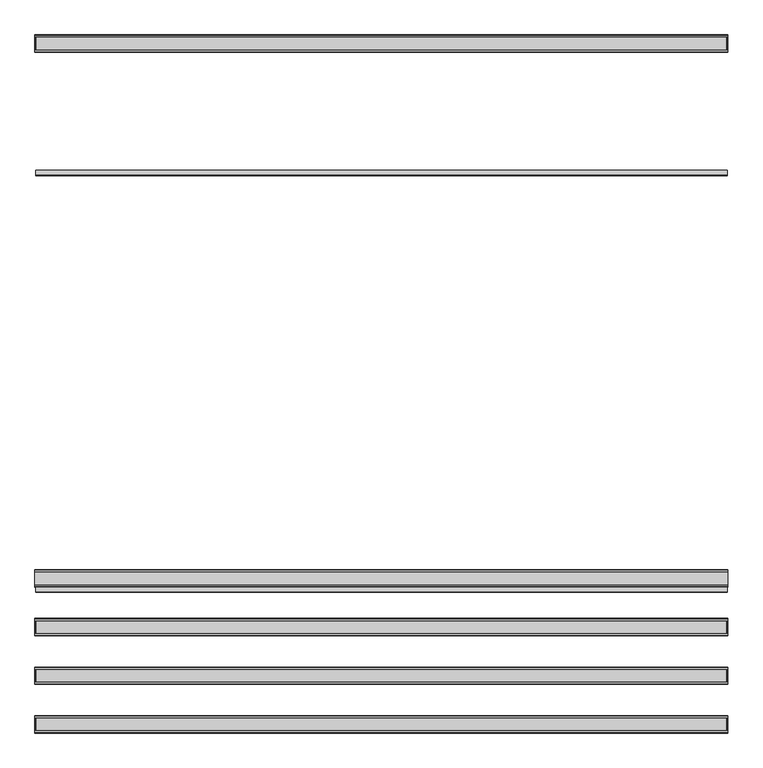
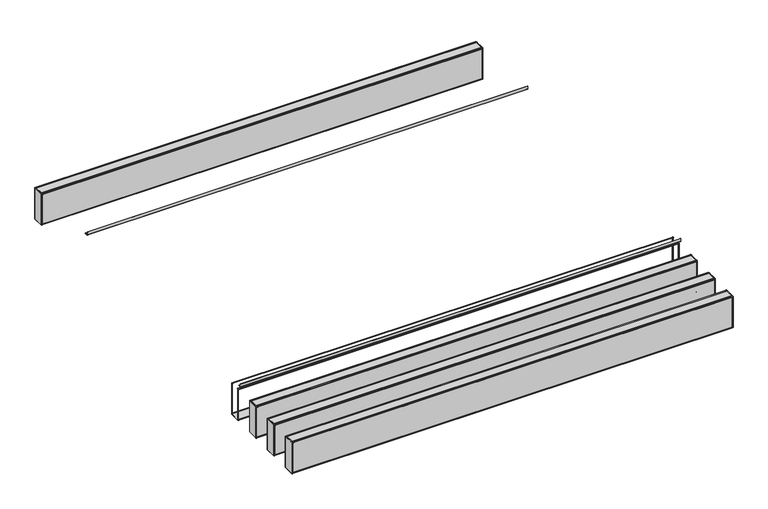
"""IFC4 building model written with IfcOpenShell, lengths in millimetres: proxy geometry, durlum_POLYLAM : durlum_POLYLAM 100 RV-L6."""

from ifc_helpers import new_model, si_unit, point, frame, frame_2d, origin, place, context, project, spatial, polyline, circle_curve, trimmed, segment, composite_curve, outline, extrude, source, transform, mapped, element, save
from ifc_brep_helpers import plane_surface, cylinder_surface, advanced_brep


def generic_models_9dfc34b4(model_context):
    return source(origin(), model_context, "Body", "SolidModel", [
        advanced_brep(
        [(1995.0, -1072.0, 2016.9), (1995.0, -1082.0, 2016.9), (1995.0, -1082.0, 2015.9), (1995.0, -1071.0, 2015.9), (1995.0, -1071.0, 1717.9), (1995.0, -1169.0, 1717.9), (1995.0, -1169.0, 2015.8155735), (1995.0, -1158.0, 2015.8155735), (1995.0, -1158.0, 2016.9), (1995.0, -1168.0, 2016.9), (1995.0, -1170.0, 2014.9), (1995.0, -1170.0, 1718.9), (1995.0, -1168.0, 1716.9), (1995.0, -1072.0, 1716.9), (1995.0, -1070.0, 1718.9), (1995.0, -1070.0, 2014.9), (-1995.0, -1072.0, 2016.9), (-1995.0, -1070.0, 2014.9), (-1995.0, -1070.0, 1718.9), (-1995.0, -1072.0, 1716.9), (-1995.0, -1168.0, 1716.9), (-1995.0, -1170.0, 1718.9), (-1995.0, -1170.0, 2014.9), (-1995.0, -1168.0, 2016.9), (-1995.0, -1158.0, 2016.9), (-1995.0, -1158.0, 2015.8155735), (-1995.0, -1169.0, 2015.8155735), (-1995.0, -1169.0, 1717.9), (-1995.0, -1071.0, 1717.9), (-1995.0, -1071.0, 2015.9), (-1995.0, -1082.0, 2015.9), (-1995.0, -1082.0, 2016.9), (-1986.5, -1071.0, 2008.4), (1986.5, -1071.0, 2008.4), (1986.5, -1071.0, 1725.4), (-1986.5, -1071.0, 1725.4), (1986.5, -1169.0, 2008.4), (-1986.5, -1169.0, 2008.4), (-1986.5, -1169.0, 1725.4), (1986.5, -1169.0, 1725.4), (-1986.5, -1170.0, 2008.4), (1986.5, -1170.0, 2008.4), (1986.5, -1170.0, 1725.4), (-1986.5, -1170.0, 1725.4), (1986.5, -1070.0, 2008.4), (-1986.5, -1070.0, 2008.4), (-1986.5, -1070.0, 1725.4), (1986.5, -1070.0, 1725.4)],
        [
            (0, 1),
            (1, 2),
            (2, 3),
            (3, 4),
            (4, 5),
            (5, 6),
            (6, 7),
            (7, 8),
            (8, 9),
            (9, 10, circle_curve(frame((1995.0, -1168.0, 2014.9), z_axis=(1.0, 0.0, 0.0), x_axis=(0.0, 1.0, 0.0)), 2.0)),
            (10, 11),
            (11, 12, circle_curve(frame((1995.0, -1168.0, 1718.9), z_axis=(1.0, 0.0, 0.0), x_axis=(0.0, 1.0, 0.0)), 2.0)),
            (12, 13),
            (13, 14, circle_curve(frame((1995.0, -1072.0, 1718.9), z_axis=(1.0, 0.0, 0.0), x_axis=(0.0, 1.0, 0.0)), 2.0)),
            (14, 15),
            (15, 0, circle_curve(frame((1995.0, -1072.0, 2014.9), z_axis=(1.0, 0.0, 0.0), x_axis=(0.0, 1.0, 0.0)), 2.0)),
            (16, 17, circle_curve(frame((-1995.0, -1072.0, 2014.9), z_axis=(-1.0, 0.0, 0.0), x_axis=(0.0, 1.0, 0.0)), 2.0)),
            (17, 18),
            (18, 19, circle_curve(frame((-1995.0, -1072.0, 1718.9), z_axis=(-1.0, 0.0, 0.0), x_axis=(0.0, 1.0, 0.0)), 2.0)),
            (19, 20),
            (20, 21, circle_curve(frame((-1995.0, -1168.0, 1718.9), z_axis=(-1.0, 0.0, 0.0), x_axis=(0.0, 1.0, 0.0)), 2.0)),
            (21, 22),
            (22, 23, circle_curve(frame((-1995.0, -1168.0, 2014.9), z_axis=(-1.0, 0.0, 0.0), x_axis=(0.0, 1.0, 0.0)), 2.0)),
            (23, 24),
            (24, 25),
            (25, 26),
            (26, 27),
            (27, 28),
            (28, 29),
            (29, 30),
            (30, 31),
            (31, 16),
            (0, 16),
            (31, 1),
            (30, 2),
            (29, 3),
            (28, 4),
            (32, 33),
            (33, 34),
            (34, 35),
            (35, 32),
            (27, 5),
            (26, 6),
            (36, 37),
            (37, 38),
            (38, 39),
            (39, 36),
            (25, 7),
            (24, 8),
            (23, 9),
            (10, 22),
            (21, 11),
            (40, 41),
            (41, 42),
            (42, 43),
            (43, 40),
            (12, 20),
            (19, 13),
            (14, 18),
            (17, 15),
            (44, 45),
            (45, 46),
            (46, 47),
            (47, 44),
            (44, 33),
            (32, 45),
            (36, 41),
            (40, 37),
            (35, 46),
            (43, 38),
            (34, 47),
            (42, 39),
        ],
        [
            plane_surface(frame((1995.0, -1082.0, 2016.9), z_axis=(1.0, 0.0, 0.0), x_axis=(0.0, -1.0, 0.0))),
            plane_surface(frame((-1995.0, -1082.0, 2016.9), z_axis=(-1.0, 0.0, 0.0), x_axis=(0.0, 1.0, 0.0))),
            plane_surface(frame((1995.0, -1072.0, 2016.9), z_axis=(0.0, 0.0, 1.0), x_axis=(-1.0, 0.0, 0.0))),
            plane_surface(frame((1995.0, -1082.0, 2016.9), z_axis=(0.0, -1.0, 0.0), x_axis=(-1.0, 0.0, 0.0))),
            plane_surface(frame((1995.0, -1082.0, 2015.9), z_axis=(0.0, 0.0, -1.0), x_axis=(-1.0, 0.0, 0.0))),
            plane_surface(frame((1995.0, -1071.0, 2015.9), z_axis=(0.0, -1.0, 0.0), x_axis=(-1.0, 0.0, 0.0))),
            plane_surface(frame((1995.0, -1071.0, 1717.9), z_axis=(0.0, 0.0, 1.0), x_axis=(-1.0, 0.0, 0.0))),
            plane_surface(frame((1995.0, -1169.0, 1717.9), z_axis=(0.0, 1.0, 0.0), x_axis=(-1.0, 0.0, 0.0))),
            plane_surface(frame((1995.0, -1169.0, 2015.8155735), z_axis=(0.0, 0.0, -1.0), x_axis=(-1.0, 0.0, 0.0))),
            plane_surface(frame((1995.0, -1158.0, 2015.8155735), z_axis=(0.0, 1.0, 0.0), x_axis=(-1.0, 0.0, 0.0))),
            plane_surface(frame((1995.0, -1158.0, 2016.9), z_axis=(0.0, 0.0, 1.0), x_axis=(-1.0, 0.0, 0.0))),
            plane_surface(frame((1995.0, -1170.0, 2014.9), z_axis=(0.0, -1.0, 0.0), x_axis=(-1.0, 0.0, 0.0))),
            plane_surface(frame((1995.0, -1168.0, 1716.9), z_axis=(0.0, 0.0, -1.0), x_axis=(-1.0, 0.0, 0.0))),
            plane_surface(frame((1995.0, -1070.0, 1718.9), z_axis=(0.0, 1.0, 0.0), x_axis=(-1.0, 0.0, 0.0))),
            cylinder_surface(frame((-1995.0, -1168.0, 2014.9), z_axis=(1.0, 0.0, 0.0), x_axis=(0.0, 1.0, 0.0)), 2.0),
            cylinder_surface(frame((-1995.0, -1168.0, 1718.9), z_axis=(1.0, 0.0, 0.0), x_axis=(0.0, 1.0, 0.0)), 2.0),
            cylinder_surface(frame((-1995.0, -1072.0, 1718.9), z_axis=(1.0, 0.0, 0.0), x_axis=(0.0, 1.0, 0.0)), 2.0),
            cylinder_surface(frame((-1995.0, -1072.0, 2014.9), z_axis=(1.0, 0.0, 0.0), x_axis=(0.0, 1.0, 0.0)), 2.0),
            plane_surface(frame((1986.5, -1170.0, 2008.4), z_axis=(0.0, 0.0, -1.0), x_axis=(0.0, 1.0, 0.0))),
            plane_surface(frame((-1986.5, -1170.0, 2008.4), z_axis=(1.0, 0.0, 0.0), x_axis=(0.0, 1.0, 0.0))),
            plane_surface(frame((-1986.5, -1170.0, 1725.4), z_axis=(0.0, 0.0, 1.0), x_axis=(0.0, 1.0, 0.0))),
            plane_surface(frame((1986.5, -1170.0, 1725.4), z_axis=(-1.0, 0.0, 0.0), x_axis=(0.0, 1.0, 0.0))),
        ],
        [
            (0, [[1, 2, 3, 4, 5, 6, 7, 8, 9, 10, 11, 12, 13, 14, 15, 16]]),
            (1, [[17, 18, 19, 20, 21, 22, 23, 24, 25, 26, 27, 28, 29, 30, 31, 32]]),
            (2, [[-1, 33, -32, 34]]),
            (3, [[-2, -34, -31, 35]]),
            (4, [[-3, -35, -30, 36]]),
            (5, [[-4, -36, -29, 37], [38, 39, 40, 41]]),
            (6, [[-5, -37, -28, 42]]),
            (7, [[-6, -42, -27, 43], [44, 45, 46, 47]]),
            (8, [[-7, -43, -26, 48]]),
            (9, [[-8, -48, -25, 49]]),
            (10, [[-9, -49, -24, 50]]),
            (11, [[-11, 51, -22, 52], [53, 54, 55, 56]]),
            (12, [[-13, 57, -20, 58]]),
            (13, [[-15, 59, -18, 60], [61, 62, 63, 64]]),
            (14, [[-10, -50, -23, -51]]),
            (15, [[-12, -52, -21, -57]]),
            (16, [[-14, -58, -19, -59]]),
            (17, [[-16, -60, -17, -33]]),
            (18, [[65, -38, 66, -61]]),
            (18, [[67, -53, 68, -44]]),
            (19, [[-66, -41, 69, -62]]),
            (19, [[-68, -56, 70, -45]]),
            (20, [[-69, -40, 71, -63]]),
            (20, [[-70, -55, 72, -46]]),
            (21, [[-65, -64, -71, -39]]),
            (21, [[-67, -47, -72, -54]]),
        ],
    ),
        extrude(outline(polyline([(1993.0, -1351.0), (1995.0, -1351.0), (1995.0, -1449.0), (1993.0, -1449.0), (1993.0, -1351.0)])), frame((0.0, 0.0, 1717.9), z_axis=(0.0, 0.0, 1.0), x_axis=(1.0, 0.0, 0.0)), (0.0, 0.0, 1.0), 298.0),
        extrude(outline(polyline([(-1995.0, -1351.0), (-1993.0, -1351.0), (-1993.0, -1449.0), (-1995.0, -1449.0), (-1995.0, -1351.0)])), frame((0.0, 0.0, 1717.9), z_axis=(0.0, 0.0, 1.0), x_axis=(1.0, 0.0, 0.0)), (0.0, 0.0, 1.0), 298.0),
        extrude(outline(polyline([(1986.5, -1351.0), (1986.5, -1449.0), (-1986.5, -1449.0), (-1986.5, -1351.0), (1986.5, -1351.0)])), frame((0.0, 0.0, 1717.9), z_axis=(0.0, 0.0, 1.0), x_axis=(1.0, 0.0, 0.0)), (0.0, 0.0, 1.0), 298.0),
        extrude(outline(polyline([(1986.5, -1351.0), (-1986.5, -1351.0), (-1986.5, -1350.0), (1986.5, -1350.0), (1986.5, -1351.0)])), frame((0.0, 0.0, 1725.4), z_axis=(0.0, 0.0, 1.0), x_axis=(1.0, 0.0, 0.0)), (0.0, 0.0, 1.0), 283.0),
        extrude(outline(polyline([(1986.5, -1450.0), (-1986.5, -1450.0), (-1986.5, -1449.0), (1986.5, -1449.0), (1986.5, -1450.0)])), frame((0.0, 0.0, 1725.4), z_axis=(0.0, 0.0, 1.0), x_axis=(1.0, 0.0, 0.0)), (0.0, 0.0, 1.0), 283.0),
        advanced_brep(
        [(1995.0, -1352.0, 2016.9), (1995.0, -1362.0, 2016.9), (1995.0, -1362.0, 2015.9), (1995.0, -1351.0, 2015.9), (1995.0, -1351.0, 1717.9), (1995.0, -1449.0, 1717.9), (1995.0, -1449.0, 2015.8155735), (1995.0, -1438.0, 2015.8155735), (1995.0, -1438.0, 2016.9), (1995.0, -1448.0, 2016.9), (1995.0, -1450.0, 2014.9), (1995.0, -1450.0, 1718.9), (1995.0, -1448.0, 1716.9), (1995.0, -1352.0, 1716.9), (1995.0, -1350.0, 1718.9), (1995.0, -1350.0, 2014.9), (-1995.0, -1352.0, 2016.9), (-1995.0, -1350.0, 2014.9), (-1995.0, -1350.0, 1718.9), (-1995.0, -1352.0, 1716.9), (-1995.0, -1448.0, 1716.9), (-1995.0, -1450.0, 1718.9), (-1995.0, -1450.0, 2014.9), (-1995.0, -1448.0, 2016.9), (-1995.0, -1438.0, 2016.9), (-1995.0, -1438.0, 2015.8155735), (-1995.0, -1449.0, 2015.8155735), (-1995.0, -1449.0, 1717.9), (-1995.0, -1351.0, 1717.9), (-1995.0, -1351.0, 2015.9), (-1995.0, -1362.0, 2015.9), (-1995.0, -1362.0, 2016.9), (-1986.5, -1351.0, 2008.4), (1986.5, -1351.0, 2008.4), (1986.5, -1351.0, 1725.4), (-1986.5, -1351.0, 1725.4), (1986.5, -1449.0, 2008.4), (-1986.5, -1449.0, 2008.4), (-1986.5, -1449.0, 1725.4), (1986.5, -1449.0, 1725.4), (-1986.5, -1450.0, 2008.4), (1986.5, -1450.0, 2008.4), (1986.5, -1450.0, 1725.4), (-1986.5, -1450.0, 1725.4), (1986.5, -1350.0, 2008.4), (-1986.5, -1350.0, 2008.4), (-1986.5, -1350.0, 1725.4), (1986.5, -1350.0, 1725.4)],
        [
            (0, 1),
            (1, 2),
            (2, 3),
            (3, 4),
            (4, 5),
            (5, 6),
            (6, 7),
            (7, 8),
            (8, 9),
            (9, 10, circle_curve(frame((1995.0, -1448.0, 2014.9), z_axis=(1.0, 0.0, 0.0), x_axis=(0.0, 1.0, 0.0)), 2.0)),
            (10, 11),
            (11, 12, circle_curve(frame((1995.0, -1448.0, 1718.9), z_axis=(1.0, 0.0, 0.0), x_axis=(0.0, 1.0, 0.0)), 2.0)),
            (12, 13),
            (13, 14, circle_curve(frame((1995.0, -1352.0, 1718.9), z_axis=(1.0, 0.0, 0.0), x_axis=(0.0, 1.0, 0.0)), 2.0)),
            (14, 15),
            (15, 0, circle_curve(frame((1995.0, -1352.0, 2014.9), z_axis=(1.0, 0.0, 0.0), x_axis=(0.0, 1.0, 0.0)), 2.0)),
            (16, 17, circle_curve(frame((-1995.0, -1352.0, 2014.9), z_axis=(-1.0, 0.0, 0.0), x_axis=(0.0, 1.0, 0.0)), 2.0)),
            (17, 18),
            (18, 19, circle_curve(frame((-1995.0, -1352.0, 1718.9), z_axis=(-1.0, 0.0, 0.0), x_axis=(0.0, 1.0, 0.0)), 2.0)),
            (19, 20),
            (20, 21, circle_curve(frame((-1995.0, -1448.0, 1718.9), z_axis=(-1.0, 0.0, 0.0), x_axis=(0.0, 1.0, 0.0)), 2.0)),
            (21, 22),
            (22, 23, circle_curve(frame((-1995.0, -1448.0, 2014.9), z_axis=(-1.0, 0.0, 0.0), x_axis=(0.0, 1.0, 0.0)), 2.0)),
            (23, 24),
            (24, 25),
            (25, 26),
            (26, 27),
            (27, 28),
            (28, 29),
            (29, 30),
            (30, 31),
            (31, 16),
            (0, 16),
            (31, 1),
            (30, 2),
            (29, 3),
            (28, 4),
            (32, 33),
            (33, 34),
            (34, 35),
            (35, 32),
            (27, 5),
            (26, 6),
            (36, 37),
            (37, 38),
            (38, 39),
            (39, 36),
            (25, 7),
            (24, 8),
            (23, 9),
            (10, 22),
            (21, 11),
            (40, 41),
            (41, 42),
            (42, 43),
            (43, 40),
            (12, 20),
            (19, 13),
            (14, 18),
            (17, 15),
            (44, 45),
            (45, 46),
            (46, 47),
            (47, 44),
            (44, 33),
            (32, 45),
            (36, 41),
            (40, 37),
            (35, 46),
            (43, 38),
            (34, 47),
            (42, 39),
        ],
        [
            plane_surface(frame((1995.0, -1362.0, 2016.9), z_axis=(1.0, 0.0, 0.0), x_axis=(0.0, -1.0, 0.0))),
            plane_surface(frame((-1995.0, -1362.0, 2016.9), z_axis=(-1.0, 0.0, 0.0), x_axis=(0.0, 1.0, 0.0))),
            plane_surface(frame((1995.0, -1352.0, 2016.9), z_axis=(0.0, 0.0, 1.0), x_axis=(-1.0, 0.0, 0.0))),
            plane_surface(frame((1995.0, -1362.0, 2016.9), z_axis=(0.0, -1.0, 0.0), x_axis=(-1.0, 0.0, 0.0))),
            plane_surface(frame((1995.0, -1362.0, 2015.9), z_axis=(0.0, 0.0, -1.0), x_axis=(-1.0, 0.0, 0.0))),
            plane_surface(frame((1995.0, -1351.0, 2015.9), z_axis=(0.0, -1.0, 0.0), x_axis=(-1.0, 0.0, 0.0))),
            plane_surface(frame((1995.0, -1351.0, 1717.9), z_axis=(0.0, 0.0, 1.0), x_axis=(-1.0, 0.0, 0.0))),
            plane_surface(frame((1995.0, -1449.0, 1717.9), z_axis=(0.0, 1.0, 0.0), x_axis=(-1.0, 0.0, 0.0))),
            plane_surface(frame((1995.0, -1449.0, 2015.8155735), z_axis=(0.0, 0.0, -1.0), x_axis=(-1.0, 0.0, 0.0))),
            plane_surface(frame((1995.0, -1438.0, 2015.8155735), z_axis=(0.0, 1.0, 0.0), x_axis=(-1.0, 0.0, 0.0))),
            plane_surface(frame((1995.0, -1438.0, 2016.9), z_axis=(0.0, 0.0, 1.0), x_axis=(-1.0, 0.0, 0.0))),
            plane_surface(frame((1995.0, -1450.0, 2014.9), z_axis=(0.0, -1.0, 0.0), x_axis=(-1.0, 0.0, 0.0))),
            plane_surface(frame((1995.0, -1448.0, 1716.9), z_axis=(0.0, 0.0, -1.0), x_axis=(-1.0, 0.0, 0.0))),
            plane_surface(frame((1995.0, -1350.0, 1718.9), z_axis=(0.0, 1.0, 0.0), x_axis=(-1.0, 0.0, 0.0))),
            cylinder_surface(frame((-1995.0, -1448.0, 2014.9), z_axis=(1.0, 0.0, 0.0), x_axis=(0.0, 1.0, 0.0)), 2.0),
            cylinder_surface(frame((-1995.0, -1448.0, 1718.9), z_axis=(1.0, 0.0, 0.0), x_axis=(0.0, 1.0, 0.0)), 2.0),
            cylinder_surface(frame((-1995.0, -1352.0, 1718.9), z_axis=(1.0, 0.0, 0.0), x_axis=(0.0, 1.0, 0.0)), 2.0),
            cylinder_surface(frame((-1995.0, -1352.0, 2014.9), z_axis=(1.0, 0.0, 0.0), x_axis=(0.0, 1.0, 0.0)), 2.0),
            plane_surface(frame((1986.5, -1450.0, 2008.4), z_axis=(0.0, 0.0, -1.0), x_axis=(0.0, 1.0, 0.0))),
            plane_surface(frame((-1986.5, -1450.0, 2008.4), z_axis=(1.0, 0.0, 0.0), x_axis=(0.0, 1.0, 0.0))),
            plane_surface(frame((-1986.5, -1450.0, 1725.4), z_axis=(0.0, 0.0, 1.0), x_axis=(0.0, 1.0, 0.0))),
            plane_surface(frame((1986.5, -1450.0, 1725.4), z_axis=(-1.0, 0.0, 0.0), x_axis=(0.0, 1.0, 0.0))),
        ],
        [
            (0, [[1, 2, 3, 4, 5, 6, 7, 8, 9, 10, 11, 12, 13, 14, 15, 16]]),
            (1, [[17, 18, 19, 20, 21, 22, 23, 24, 25, 26, 27, 28, 29, 30, 31, 32]]),
            (2, [[-1, 33, -32, 34]]),
            (3, [[-2, -34, -31, 35]]),
            (4, [[-3, -35, -30, 36]]),
            (5, [[-4, -36, -29, 37], [38, 39, 40, 41]]),
            (6, [[-5, -37, -28, 42]]),
            (7, [[-6, -42, -27, 43], [44, 45, 46, 47]]),
            (8, [[-7, -43, -26, 48]]),
            (9, [[-8, -48, -25, 49]]),
            (10, [[-9, -49, -24, 50]]),
            (11, [[-11, 51, -22, 52], [53, 54, 55, 56]]),
            (12, [[-13, 57, -20, 58]]),
            (13, [[-15, 59, -18, 60], [61, 62, 63, 64]]),
            (14, [[-10, -50, -23, -51]]),
            (15, [[-12, -52, -21, -57]]),
            (16, [[-14, -58, -19, -59]]),
            (17, [[-16, -60, -17, -33]]),
            (18, [[65, -38, 66, -61]]),
            (18, [[67, -53, 68, -44]]),
            (19, [[-66, -41, 69, -62]]),
            (19, [[-68, -56, 70, -45]]),
            (20, [[-69, -40, 71, -63]]),
            (20, [[-70, -55, 72, -46]]),
            (21, [[-65, -64, -71, -39]]),
            (21, [[-67, -47, -72, -54]]),
        ],
    ),
        extrude(outline(polyline([(1993.0, -1631.0), (1995.0, -1631.0), (1995.0, -1729.0), (1993.0, -1729.0), (1993.0, -1631.0)])), frame((0.0, 0.0, 1717.9), z_axis=(0.0, 0.0, 1.0), x_axis=(1.0, 0.0, 0.0)), (0.0, 0.0, 1.0), 298.0),
        extrude(outline(polyline([(-1995.0, -1631.0), (-1993.0, -1631.0), (-1993.0, -1729.0), (-1995.0, -1729.0), (-1995.0, -1631.0)])), frame((0.0, 0.0, 1717.9), z_axis=(0.0, 0.0, 1.0), x_axis=(1.0, 0.0, 0.0)), (0.0, 0.0, 1.0), 298.0),
        extrude(outline(polyline([(1986.5, -1631.0), (1986.5, -1729.0), (-1986.5, -1729.0), (-1986.5, -1631.0), (1986.5, -1631.0)])), frame((0.0, 0.0, 1717.9), z_axis=(0.0, 0.0, 1.0), x_axis=(1.0, 0.0, 0.0)), (0.0, 0.0, 1.0), 298.0),
        extrude(outline(polyline([(1986.5, -1631.0), (-1986.5, -1631.0), (-1986.5, -1630.0), (1986.5, -1630.0), (1986.5, -1631.0)])), frame((0.0, 0.0, 1725.4), z_axis=(0.0, 0.0, 1.0), x_axis=(1.0, 0.0, 0.0)), (0.0, 0.0, 1.0), 283.0),
        extrude(outline(polyline([(1986.5, -1730.0), (-1986.5, -1730.0), (-1986.5, -1729.0), (1986.5, -1729.0), (1986.5, -1730.0)])), frame((0.0, 0.0, 1725.4), z_axis=(0.0, 0.0, 1.0), x_axis=(1.0, 0.0, 0.0)), (0.0, 0.0, 1.0), 283.0),
        advanced_brep(
        [(1995.0, -1632.0, 2016.9), (1995.0, -1642.0, 2016.9), (1995.0, -1642.0, 2015.9), (1995.0, -1631.0, 2015.9), (1995.0, -1631.0, 1717.9), (1995.0, -1729.0, 1717.9), (1995.0, -1729.0, 2015.8155735), (1995.0, -1718.0, 2015.8155735), (1995.0, -1718.0, 2016.9), (1995.0, -1728.0, 2016.9), (1995.0, -1730.0, 2014.9), (1995.0, -1730.0, 1718.9), (1995.0, -1728.0, 1716.9), (1995.0, -1632.0, 1716.9), (1995.0, -1630.0, 1718.9), (1995.0, -1630.0, 2014.9), (-1995.0, -1632.0, 2016.9), (-1995.0, -1630.0, 2014.9), (-1995.0, -1630.0, 1718.9), (-1995.0, -1632.0, 1716.9), (-1995.0, -1728.0, 1716.9), (-1995.0, -1730.0, 1718.9), (-1995.0, -1730.0, 2014.9), (-1995.0, -1728.0, 2016.9), (-1995.0, -1718.0, 2016.9), (-1995.0, -1718.0, 2015.8155735), (-1995.0, -1729.0, 2015.8155735), (-1995.0, -1729.0, 1717.9), (-1995.0, -1631.0, 1717.9), (-1995.0, -1631.0, 2015.9), (-1995.0, -1642.0, 2015.9), (-1995.0, -1642.0, 2016.9), (-1986.5, -1631.0, 2008.4), (1986.5, -1631.0, 2008.4), (1986.5, -1631.0, 1725.4), (-1986.5, -1631.0, 1725.4), (1986.5, -1729.0, 2008.4), (-1986.5, -1729.0, 2008.4), (-1986.5, -1729.0, 1725.4), (1986.5, -1729.0, 1725.4), (-1986.5, -1730.0, 2008.4), (1986.5, -1730.0, 2008.4), (1986.5, -1730.0, 1725.4), (-1986.5, -1730.0, 1725.4), (1986.5, -1630.0, 2008.4), (-1986.5, -1630.0, 2008.4), (-1986.5, -1630.0, 1725.4), (1986.5, -1630.0, 1725.4)],
        [
            (0, 1),
            (1, 2),
            (2, 3),
            (3, 4),
            (4, 5),
            (5, 6),
            (6, 7),
            (7, 8),
            (8, 9),
            (9, 10, circle_curve(frame((1995.0, -1728.0, 2014.9), z_axis=(1.0, 0.0, 0.0), x_axis=(0.0, 1.0, 0.0)), 2.0)),
            (10, 11),
            (11, 12, circle_curve(frame((1995.0, -1728.0, 1718.9), z_axis=(1.0, 0.0, 0.0), x_axis=(0.0, 1.0, 0.0)), 2.0)),
            (12, 13),
            (13, 14, circle_curve(frame((1995.0, -1632.0, 1718.9), z_axis=(1.0, 0.0, 0.0), x_axis=(0.0, 1.0, 0.0)), 2.0)),
            (14, 15),
            (15, 0, circle_curve(frame((1995.0, -1632.0, 2014.9), z_axis=(1.0, 0.0, 0.0), x_axis=(0.0, 1.0, 0.0)), 2.0)),
            (16, 17, circle_curve(frame((-1995.0, -1632.0, 2014.9), z_axis=(-1.0, 0.0, 0.0), x_axis=(0.0, 1.0, 0.0)), 2.0)),
            (17, 18),
            (18, 19, circle_curve(frame((-1995.0, -1632.0, 1718.9), z_axis=(-1.0, 0.0, 0.0), x_axis=(0.0, 1.0, 0.0)), 2.0)),
            (19, 20),
            (20, 21, circle_curve(frame((-1995.0, -1728.0, 1718.9), z_axis=(-1.0, 0.0, 0.0), x_axis=(0.0, 1.0, 0.0)), 2.0)),
            (21, 22),
            (22, 23, circle_curve(frame((-1995.0, -1728.0, 2014.9), z_axis=(-1.0, 0.0, 0.0), x_axis=(0.0, 1.0, 0.0)), 2.0)),
            (23, 24),
            (24, 25),
            (25, 26),
            (26, 27),
            (27, 28),
            (28, 29),
            (29, 30),
            (30, 31),
            (31, 16),
            (0, 16),
            (31, 1),
            (30, 2),
            (29, 3),
            (28, 4),
            (32, 33),
            (33, 34),
            (34, 35),
            (35, 32),
            (27, 5),
            (26, 6),
            (36, 37),
            (37, 38),
            (38, 39),
            (39, 36),
            (25, 7),
            (24, 8),
            (23, 9),
            (10, 22),
            (21, 11),
            (40, 41),
            (41, 42),
            (42, 43),
            (43, 40),
            (12, 20),
            (19, 13),
            (14, 18),
            (17, 15),
            (44, 45),
            (45, 46),
            (46, 47),
            (47, 44),
            (44, 33),
            (32, 45),
            (36, 41),
            (40, 37),
            (35, 46),
            (43, 38),
            (34, 47),
            (42, 39),
        ],
        [
            plane_surface(frame((1995.0, -1642.0, 2016.9), z_axis=(1.0, 0.0, 0.0), x_axis=(0.0, -1.0, 0.0))),
            plane_surface(frame((-1995.0, -1642.0, 2016.9), z_axis=(-1.0, 0.0, 0.0), x_axis=(0.0, 1.0, 0.0))),
            plane_surface(frame((1995.0, -1632.0, 2016.9), z_axis=(0.0, 0.0, 1.0), x_axis=(-1.0, 0.0, 0.0))),
            plane_surface(frame((1995.0, -1642.0, 2016.9), z_axis=(0.0, -1.0, 0.0), x_axis=(-1.0, 0.0, 0.0))),
            plane_surface(frame((1995.0, -1642.0, 2015.9), z_axis=(0.0, 0.0, -1.0), x_axis=(-1.0, 0.0, 0.0))),
            plane_surface(frame((1995.0, -1631.0, 2015.9), z_axis=(0.0, -1.0, 0.0), x_axis=(-1.0, 0.0, 0.0))),
            plane_surface(frame((1995.0, -1631.0, 1717.9), z_axis=(0.0, 0.0, 1.0), x_axis=(-1.0, 0.0, 0.0))),
            plane_surface(frame((1995.0, -1729.0, 1717.9), z_axis=(0.0, 1.0, 0.0), x_axis=(-1.0, 0.0, 0.0))),
            plane_surface(frame((1995.0, -1729.0, 2015.8155735), z_axis=(0.0, 0.0, -1.0), x_axis=(-1.0, 0.0, 0.0))),
            plane_surface(frame((1995.0, -1718.0, 2015.8155735), z_axis=(0.0, 1.0, 0.0), x_axis=(-1.0, 0.0, 0.0))),
            plane_surface(frame((1995.0, -1718.0, 2016.9), z_axis=(0.0, 0.0, 1.0), x_axis=(-1.0, 0.0, 0.0))),
            plane_surface(frame((1995.0, -1730.0, 2014.9), z_axis=(0.0, -1.0, 0.0), x_axis=(-1.0, 0.0, 0.0))),
            plane_surface(frame((1995.0, -1728.0, 1716.9), z_axis=(0.0, 0.0, -1.0), x_axis=(-1.0, 0.0, 0.0))),
            plane_surface(frame((1995.0, -1630.0, 1718.9), z_axis=(0.0, 1.0, 0.0), x_axis=(-1.0, 0.0, 0.0))),
            cylinder_surface(frame((-1995.0, -1728.0, 2014.9), z_axis=(1.0, 0.0, 0.0), x_axis=(0.0, 1.0, 0.0)), 2.0),
            cylinder_surface(frame((-1995.0, -1728.0, 1718.9), z_axis=(1.0, 0.0, 0.0), x_axis=(0.0, 1.0, 0.0)), 2.0),
            cylinder_surface(frame((-1995.0, -1632.0, 1718.9), z_axis=(1.0, 0.0, 0.0), x_axis=(0.0, 1.0, 0.0)), 2.0),
            cylinder_surface(frame((-1995.0, -1632.0, 2014.9), z_axis=(1.0, 0.0, 0.0), x_axis=(0.0, 1.0, 0.0)), 2.0),
            plane_surface(frame((1986.5, -1730.0, 2008.4), z_axis=(0.0, 0.0, -1.0), x_axis=(0.0, 1.0, 0.0))),
            plane_surface(frame((-1986.5, -1730.0, 2008.4), z_axis=(1.0, 0.0, 0.0), x_axis=(0.0, 1.0, 0.0))),
            plane_surface(frame((-1986.5, -1730.0, 1725.4), z_axis=(0.0, 0.0, 1.0), x_axis=(0.0, 1.0, 0.0))),
            plane_surface(frame((1986.5, -1730.0, 1725.4), z_axis=(-1.0, 0.0, 0.0), x_axis=(0.0, 1.0, 0.0))),
        ],
        [
            (0, [[1, 2, 3, 4, 5, 6, 7, 8, 9, 10, 11, 12, 13, 14, 15, 16]]),
            (1, [[17, 18, 19, 20, 21, 22, 23, 24, 25, 26, 27, 28, 29, 30, 31, 32]]),
            (2, [[-1, 33, -32, 34]]),
            (3, [[-2, -34, -31, 35]]),
            (4, [[-3, -35, -30, 36]]),
            (5, [[-4, -36, -29, 37], [38, 39, 40, 41]]),
            (6, [[-5, -37, -28, 42]]),
            (7, [[-6, -42, -27, 43], [44, 45, 46, 47]]),
            (8, [[-7, -43, -26, 48]]),
            (9, [[-8, -48, -25, 49]]),
            (10, [[-9, -49, -24, 50]]),
            (11, [[-11, 51, -22, 52], [53, 54, 55, 56]]),
            (12, [[-13, 57, -20, 58]]),
            (13, [[-15, 59, -18, 60], [61, 62, 63, 64]]),
            (14, [[-10, -50, -23, -51]]),
            (15, [[-12, -52, -21, -57]]),
            (16, [[-14, -58, -19, -59]]),
            (17, [[-16, -60, -17, -33]]),
            (18, [[65, -38, 66, -61]]),
            (18, [[67, -53, 68, -44]]),
            (19, [[-66, -41, 69, -62]]),
            (19, [[-68, -56, 70, -45]]),
            (20, [[-69, -40, 71, -63]]),
            (20, [[-70, -55, 72, -46]]),
            (21, [[-65, -64, -71, -39]]),
            (21, [[-67, -47, -72, -54]]),
        ],
    ),
        extrude(outline(polyline([(1993.0, 2009.0), (1995.0, 2009.0), (1995.0, 1911.0), (1993.0, 1911.0), (1993.0, 2009.0)])), frame((0.0, 0.0, 1717.9), z_axis=(0.0, 0.0, 1.0), x_axis=(1.0, 0.0, 0.0)), (0.0, 0.0, 1.0), 298.0),
        extrude(outline(polyline([(-1995.0, 2009.0), (-1993.0, 2009.0), (-1993.0, 1911.0), (-1995.0, 1911.0), (-1995.0, 2009.0)])), frame((0.0, 0.0, 1717.9), z_axis=(0.0, 0.0, 1.0), x_axis=(1.0, 0.0, 0.0)), (0.0, 0.0, 1.0), 298.0),
        extrude(outline(polyline([(1986.5, 2009.0), (1986.5, 1911.0), (-1986.5, 1911.0), (-1986.5, 2009.0), (1986.5, 2009.0)])), frame((0.0, 0.0, 1717.9), z_axis=(0.0, 0.0, 1.0), x_axis=(1.0, 0.0, 0.0)), (0.0, 0.0, 1.0), 298.0),
        extrude(outline(polyline([(1986.5, 2009.0), (-1986.5, 2009.0), (-1986.5, 2010.0), (1986.5, 2010.0), (1986.5, 2009.0)])), frame((0.0, 0.0, 1725.4), z_axis=(0.0, 0.0, 1.0), x_axis=(1.0, 0.0, 0.0)), (0.0, 0.0, 1.0), 283.0),
        extrude(outline(polyline([(1986.5, 1910.0), (-1986.5, 1910.0), (-1986.5, 1911.0), (1986.5, 1911.0), (1986.5, 1910.0)])), frame((0.0, 0.0, 1725.4), z_axis=(0.0, 0.0, 1.0), x_axis=(1.0, 0.0, 0.0)), (0.0, 0.0, 1.0), 283.0),
        advanced_brep(
        [(1995.0, 2008.0, 2016.9), (1995.0, 1998.0, 2016.9), (1995.0, 1998.0, 2015.9), (1995.0, 2009.0, 2015.9), (1995.0, 2009.0, 1717.9), (1995.0, 1911.0, 1717.9), (1995.0, 1911.0, 2015.8155735), (1995.0, 1922.0, 2015.8155735), (1995.0, 1922.0, 2016.9), (1995.0, 1912.0, 2016.9), (1995.0, 1910.0, 2014.9), (1995.0, 1910.0, 1718.9), (1995.0, 1912.0, 1716.9), (1995.0, 2008.0, 1716.9), (1995.0, 2010.0, 1718.9), (1995.0, 2010.0, 2014.9), (-1995.0, 2008.0, 2016.9), (-1995.0, 2010.0, 2014.9), (-1995.0, 2010.0, 1718.9), (-1995.0, 2008.0, 1716.9), (-1995.0, 1912.0, 1716.9), (-1995.0, 1910.0, 1718.9), (-1995.0, 1910.0, 2014.9), (-1995.0, 1912.0, 2016.9), (-1995.0, 1922.0, 2016.9), (-1995.0, 1922.0, 2015.8155735), (-1995.0, 1911.0, 2015.8155735), (-1995.0, 1911.0, 1717.9), (-1995.0, 2009.0, 1717.9), (-1995.0, 2009.0, 2015.9), (-1995.0, 1998.0, 2015.9), (-1995.0, 1998.0, 2016.9), (-1986.5, 2009.0, 2008.4), (1986.5, 2009.0, 2008.4), (1986.5, 2009.0, 1725.4), (-1986.5, 2009.0, 1725.4), (1986.5, 1911.0, 2008.4), (-1986.5, 1911.0, 2008.4), (-1986.5, 1911.0, 1725.4), (1986.5, 1911.0, 1725.4), (-1986.5, 1910.0, 2008.4), (1986.5, 1910.0, 2008.4), (1986.5, 1910.0, 1725.4), (-1986.5, 1910.0, 1725.4), (1986.5, 2010.0, 2008.4), (-1986.5, 2010.0, 2008.4), (-1986.5, 2010.0, 1725.4), (1986.5, 2010.0, 1725.4)],
        [
            (0, 1),
            (1, 2),
            (2, 3),
            (3, 4),
            (4, 5),
            (5, 6),
            (6, 7),
            (7, 8),
            (8, 9),
            (9, 10, circle_curve(frame((1995.0, 1912.0, 2014.9), z_axis=(1.0, 0.0, 0.0), x_axis=(0.0, 1.0, 0.0)), 2.0)),
            (10, 11),
            (11, 12, circle_curve(frame((1995.0, 1912.0, 1718.9), z_axis=(1.0, 0.0, 0.0), x_axis=(0.0, 1.0, 0.0)), 2.0)),
            (12, 13),
            (13, 14, circle_curve(frame((1995.0, 2008.0, 1718.9), z_axis=(1.0, 0.0, 0.0), x_axis=(0.0, 1.0, 0.0)), 2.0)),
            (14, 15),
            (15, 0, circle_curve(frame((1995.0, 2008.0, 2014.9), z_axis=(1.0, 0.0, 0.0), x_axis=(0.0, 1.0, 0.0)), 2.0)),
            (16, 17, circle_curve(frame((-1995.0, 2008.0, 2014.9), z_axis=(-1.0, 0.0, 0.0), x_axis=(0.0, 1.0, 0.0)), 2.0)),
            (17, 18),
            (18, 19, circle_curve(frame((-1995.0, 2008.0, 1718.9), z_axis=(-1.0, 0.0, 0.0), x_axis=(0.0, 1.0, 0.0)), 2.0)),
            (19, 20),
            (20, 21, circle_curve(frame((-1995.0, 1912.0, 1718.9), z_axis=(-1.0, 0.0, 0.0), x_axis=(0.0, 1.0, 0.0)), 2.0)),
            (21, 22),
            (22, 23, circle_curve(frame((-1995.0, 1912.0, 2014.9), z_axis=(-1.0, 0.0, 0.0), x_axis=(0.0, 1.0, 0.0)), 2.0)),
            (23, 24),
            (24, 25),
            (25, 26),
            (26, 27),
            (27, 28),
            (28, 29),
            (29, 30),
            (30, 31),
            (31, 16),
            (0, 16),
            (31, 1),
            (30, 2),
            (29, 3),
            (28, 4),
            (32, 33),
            (33, 34),
            (34, 35),
            (35, 32),
            (27, 5),
            (26, 6),
            (36, 37),
            (37, 38),
            (38, 39),
            (39, 36),
            (25, 7),
            (24, 8),
            (23, 9),
            (10, 22),
            (21, 11),
            (40, 41),
            (41, 42),
            (42, 43),
            (43, 40),
            (12, 20),
            (19, 13),
            (14, 18),
            (17, 15),
            (44, 45),
            (45, 46),
            (46, 47),
            (47, 44),
            (44, 33),
            (32, 45),
            (36, 41),
            (40, 37),
            (35, 46),
            (43, 38),
            (34, 47),
            (42, 39),
        ],
        [
            plane_surface(frame((1995.0, 1998.0, 2016.9), z_axis=(1.0, 0.0, 0.0), x_axis=(0.0, -1.0, 0.0))),
            plane_surface(frame((-1995.0, 1998.0, 2016.9), z_axis=(-1.0, 0.0, 0.0), x_axis=(0.0, 1.0, 0.0))),
            plane_surface(frame((1995.0, 2008.0, 2016.9), z_axis=(0.0, 0.0, 1.0), x_axis=(-1.0, 0.0, 0.0))),
            plane_surface(frame((1995.0, 1998.0, 2016.9), z_axis=(0.0, -1.0, 0.0), x_axis=(-1.0, 0.0, 0.0))),
            plane_surface(frame((1995.0, 1998.0, 2015.9), z_axis=(0.0, 0.0, -1.0), x_axis=(-1.0, 0.0, 0.0))),
            plane_surface(frame((1995.0, 2009.0, 2015.9), z_axis=(0.0, -1.0, 0.0), x_axis=(-1.0, 0.0, 0.0))),
            plane_surface(frame((1995.0, 2009.0, 1717.9), z_axis=(0.0, 0.0, 1.0), x_axis=(-1.0, 0.0, 0.0))),
            plane_surface(frame((1995.0, 1911.0, 1717.9), z_axis=(0.0, 1.0, 0.0), x_axis=(-1.0, 0.0, 0.0))),
            plane_surface(frame((1995.0, 1911.0, 2015.8155735), z_axis=(0.0, 0.0, -1.0), x_axis=(-1.0, 0.0, 0.0))),
            plane_surface(frame((1995.0, 1922.0, 2015.8155735), z_axis=(0.0, 1.0, 0.0), x_axis=(-1.0, 0.0, 0.0))),
            plane_surface(frame((1995.0, 1922.0, 2016.9), z_axis=(0.0, 0.0, 1.0), x_axis=(-1.0, 0.0, 0.0))),
            plane_surface(frame((1995.0, 1910.0, 2014.9), z_axis=(0.0, -1.0, 0.0), x_axis=(-1.0, 0.0, 0.0))),
            plane_surface(frame((1995.0, 1912.0, 1716.9), z_axis=(0.0, 0.0, -1.0), x_axis=(-1.0, 0.0, 0.0))),
            plane_surface(frame((1995.0, 2010.0, 1718.9), z_axis=(0.0, 1.0, 0.0), x_axis=(-1.0, 0.0, 0.0))),
            cylinder_surface(frame((-1995.0, 1912.0, 2014.9), z_axis=(1.0, 0.0, 0.0), x_axis=(0.0, 1.0, 0.0)), 2.0),
            cylinder_surface(frame((-1995.0, 1912.0, 1718.9), z_axis=(1.0, 0.0, 0.0), x_axis=(0.0, 1.0, 0.0)), 2.0),
            cylinder_surface(frame((-1995.0, 2008.0, 1718.9), z_axis=(1.0, 0.0, 0.0), x_axis=(0.0, 1.0, 0.0)), 2.0),
            cylinder_surface(frame((-1995.0, 2008.0, 2014.9), z_axis=(1.0, 0.0, 0.0), x_axis=(0.0, 1.0, 0.0)), 2.0),
            plane_surface(frame((1986.5, 1910.0, 2008.4), z_axis=(0.0, 0.0, -1.0), x_axis=(0.0, 1.0, 0.0))),
            plane_surface(frame((-1986.5, 1910.0, 2008.4), z_axis=(1.0, 0.0, 0.0), x_axis=(0.0, 1.0, 0.0))),
            plane_surface(frame((-1986.5, 1910.0, 1725.4), z_axis=(0.0, 0.0, 1.0), x_axis=(0.0, 1.0, 0.0))),
            plane_surface(frame((1986.5, 1910.0, 1725.4), z_axis=(-1.0, 0.0, 0.0), x_axis=(0.0, 1.0, 0.0))),
        ],
        [
            (0, [[1, 2, 3, 4, 5, 6, 7, 8, 9, 10, 11, 12, 13, 14, 15, 16]]),
            (1, [[17, 18, 19, 20, 21, 22, 23, 24, 25, 26, 27, 28, 29, 30, 31, 32]]),
            (2, [[-1, 33, -32, 34]]),
            (3, [[-2, -34, -31, 35]]),
            (4, [[-3, -35, -30, 36]]),
            (5, [[-4, -36, -29, 37], [38, 39, 40, 41]]),
            (6, [[-5, -37, -28, 42]]),
            (7, [[-6, -42, -27, 43], [44, 45, 46, 47]]),
            (8, [[-7, -43, -26, 48]]),
            (9, [[-8, -48, -25, 49]]),
            (10, [[-9, -49, -24, 50]]),
            (11, [[-11, 51, -22, 52], [53, 54, 55, 56]]),
            (12, [[-13, 57, -20, 58]]),
            (13, [[-15, 59, -18, 60], [61, 62, 63, 64]]),
            (14, [[-10, -50, -23, -51]]),
            (15, [[-12, -52, -21, -57]]),
            (16, [[-14, -58, -19, -59]]),
            (17, [[-16, -60, -17, -33]]),
            (18, [[65, -38, 66, -61]]),
            (18, [[67, -53, 68, -44]]),
            (19, [[-66, -41, 69, -62]]),
            (19, [[-68, -56, 70, -45]]),
            (20, [[-69, -40, 71, -63]]),
            (20, [[-70, -55, 72, -46]]),
            (21, [[-65, -64, -71, -39]]),
            (21, [[-67, -47, -72, -54]]),
        ],
    ),
        extrude(outline(polyline([(1993.0, -1911.0), (1995.0, -1911.0), (1995.0, -2009.0), (1993.0, -2009.0), (1993.0, -1911.0)])), frame((0.0, 0.0, 1717.9), z_axis=(0.0, 0.0, 1.0), x_axis=(1.0, 0.0, 0.0)), (0.0, 0.0, 1.0), 298.0),
        extrude(outline(polyline([(-1995.0, -1911.0), (-1993.0, -1911.0), (-1993.0, -2009.0), (-1995.0, -2009.0), (-1995.0, -1911.0)])), frame((0.0, 0.0, 1717.9), z_axis=(0.0, 0.0, 1.0), x_axis=(1.0, 0.0, 0.0)), (0.0, 0.0, 1.0), 298.0),
        extrude(outline(polyline([(1986.5, -1911.0), (1986.5, -2009.0), (-1986.5, -2009.0), (-1986.5, -1911.0), (1986.5, -1911.0)])), frame((0.0, 0.0, 1717.9), z_axis=(0.0, 0.0, 1.0), x_axis=(1.0, 0.0, 0.0)), (0.0, 0.0, 1.0), 298.0),
        extrude(outline(polyline([(1986.5, -1911.0), (-1986.5, -1911.0), (-1986.5, -1910.0), (1986.5, -1910.0), (1986.5, -1911.0)])), frame((0.0, 0.0, 1725.4), z_axis=(0.0, 0.0, 1.0), x_axis=(1.0, 0.0, 0.0)), (0.0, 0.0, 1.0), 283.0),
        extrude(outline(polyline([(1986.5, -2010.0), (-1986.5, -2010.0), (-1986.5, -2009.0), (1986.5, -2009.0), (1986.5, -2010.0)])), frame((0.0, 0.0, 1725.4), z_axis=(0.0, 0.0, 1.0), x_axis=(1.0, 0.0, 0.0)), (0.0, 0.0, 1.0), 283.0),
        advanced_brep(
        [(1995.0, -1912.0, 2016.9), (1995.0, -1922.0, 2016.9), (1995.0, -1922.0, 2015.9), (1995.0, -1911.0, 2015.9), (1995.0, -1911.0, 1717.9), (1995.0, -2009.0, 1717.9), (1995.0, -2009.0, 2015.8155735), (1995.0, -1998.0, 2015.8155735), (1995.0, -1998.0, 2016.9), (1995.0, -2008.0, 2016.9), (1995.0, -2010.0, 2014.9), (1995.0, -2010.0, 1718.9), (1995.0, -2008.0, 1716.9), (1995.0, -1912.0, 1716.9), (1995.0, -1910.0, 1718.9), (1995.0, -1910.0, 2014.9), (-1995.0, -1912.0, 2016.9), (-1995.0, -1910.0, 2014.9), (-1995.0, -1910.0, 1718.9), (-1995.0, -1912.0, 1716.9), (-1995.0, -2008.0, 1716.9), (-1995.0, -2010.0, 1718.9), (-1995.0, -2010.0, 2014.9), (-1995.0, -2008.0, 2016.9), (-1995.0, -1998.0, 2016.9), (-1995.0, -1998.0, 2015.8155735), (-1995.0, -2009.0, 2015.8155735), (-1995.0, -2009.0, 1717.9), (-1995.0, -1911.0, 1717.9), (-1995.0, -1911.0, 2015.9), (-1995.0, -1922.0, 2015.9), (-1995.0, -1922.0, 2016.9), (-1986.5, -1911.0, 2008.4), (1986.5, -1911.0, 2008.4), (1986.5, -1911.0, 1725.4), (-1986.5, -1911.0, 1725.4), (1986.5, -2009.0, 2008.4), (-1986.5, -2009.0, 2008.4), (-1986.5, -2009.0, 1725.4), (1986.5, -2009.0, 1725.4), (-1986.5, -2010.0, 2008.4), (1986.5, -2010.0, 2008.4), (1986.5, -2010.0, 1725.4), (-1986.5, -2010.0, 1725.4), (1986.5, -1910.0, 2008.4), (-1986.5, -1910.0, 2008.4), (-1986.5, -1910.0, 1725.4), (1986.5, -1910.0, 1725.4)],
        [
            (0, 1),
            (1, 2),
            (2, 3),
            (3, 4),
            (4, 5),
            (5, 6),
            (6, 7),
            (7, 8),
            (8, 9),
            (9, 10, circle_curve(frame((1995.0, -2008.0, 2014.9), z_axis=(1.0, 0.0, 0.0), x_axis=(0.0, 1.0, 0.0)), 2.0)),
            (10, 11),
            (11, 12, circle_curve(frame((1995.0, -2008.0, 1718.9), z_axis=(1.0, 0.0, 0.0), x_axis=(0.0, 1.0, 0.0)), 2.0)),
            (12, 13),
            (13, 14, circle_curve(frame((1995.0, -1912.0, 1718.9), z_axis=(1.0, 0.0, 0.0), x_axis=(0.0, 1.0, 0.0)), 2.0)),
            (14, 15),
            (15, 0, circle_curve(frame((1995.0, -1912.0, 2014.9), z_axis=(1.0, 0.0, 0.0), x_axis=(0.0, 1.0, 0.0)), 2.0)),
            (16, 17, circle_curve(frame((-1995.0, -1912.0, 2014.9), z_axis=(-1.0, 0.0, 0.0), x_axis=(0.0, 1.0, 0.0)), 2.0)),
            (17, 18),
            (18, 19, circle_curve(frame((-1995.0, -1912.0, 1718.9), z_axis=(-1.0, 0.0, 0.0), x_axis=(0.0, 1.0, 0.0)), 2.0)),
            (19, 20),
            (20, 21, circle_curve(frame((-1995.0, -2008.0, 1718.9), z_axis=(-1.0, 0.0, 0.0), x_axis=(0.0, 1.0, 0.0)), 2.0)),
            (21, 22),
            (22, 23, circle_curve(frame((-1995.0, -2008.0, 2014.9), z_axis=(-1.0, 0.0, 0.0), x_axis=(0.0, 1.0, 0.0)), 2.0)),
            (23, 24),
            (24, 25),
            (25, 26),
            (26, 27),
            (27, 28),
            (28, 29),
            (29, 30),
            (30, 31),
            (31, 16),
            (0, 16),
            (31, 1),
            (30, 2),
            (29, 3),
            (28, 4),
            (32, 33),
            (33, 34),
            (34, 35),
            (35, 32),
            (27, 5),
            (26, 6),
            (36, 37),
            (37, 38),
            (38, 39),
            (39, 36),
            (25, 7),
            (24, 8),
            (23, 9),
            (10, 22),
            (21, 11),
            (40, 41),
            (41, 42),
            (42, 43),
            (43, 40),
            (12, 20),
            (19, 13),
            (14, 18),
            (17, 15),
            (44, 45),
            (45, 46),
            (46, 47),
            (47, 44),
            (44, 33),
            (32, 45),
            (36, 41),
            (40, 37),
            (35, 46),
            (43, 38),
            (34, 47),
            (42, 39),
        ],
        [
            plane_surface(frame((1995.0, -1922.0, 2016.9), z_axis=(1.0, 0.0, 0.0), x_axis=(0.0, -1.0, 0.0))),
            plane_surface(frame((-1995.0, -1922.0, 2016.9), z_axis=(-1.0, 0.0, 0.0), x_axis=(0.0, 1.0, 0.0))),
            plane_surface(frame((1995.0, -1912.0, 2016.9), z_axis=(0.0, 0.0, 1.0), x_axis=(-1.0, 0.0, 0.0))),
            plane_surface(frame((1995.0, -1922.0, 2016.9), z_axis=(0.0, -1.0, 0.0), x_axis=(-1.0, 0.0, 0.0))),
            plane_surface(frame((1995.0, -1922.0, 2015.9), z_axis=(0.0, 0.0, -1.0), x_axis=(-1.0, 0.0, 0.0))),
            plane_surface(frame((1995.0, -1911.0, 2015.9), z_axis=(0.0, -1.0, 0.0), x_axis=(-1.0, 0.0, 0.0))),
            plane_surface(frame((1995.0, -1911.0, 1717.9), z_axis=(0.0, 0.0, 1.0), x_axis=(-1.0, 0.0, 0.0))),
            plane_surface(frame((1995.0, -2009.0, 1717.9), z_axis=(0.0, 1.0, 0.0), x_axis=(-1.0, 0.0, 0.0))),
            plane_surface(frame((1995.0, -2009.0, 2015.8155735), z_axis=(0.0, 0.0, -1.0), x_axis=(-1.0, 0.0, 0.0))),
            plane_surface(frame((1995.0, -1998.0, 2015.8155735), z_axis=(0.0, 1.0, 0.0), x_axis=(-1.0, 0.0, 0.0))),
            plane_surface(frame((1995.0, -1998.0, 2016.9), z_axis=(0.0, 0.0, 1.0), x_axis=(-1.0, 0.0, 0.0))),
            plane_surface(frame((1995.0, -2010.0, 2014.9), z_axis=(0.0, -1.0, 0.0), x_axis=(-1.0, 0.0, 0.0))),
            plane_surface(frame((1995.0, -2008.0, 1716.9), z_axis=(0.0, 0.0, -1.0), x_axis=(-1.0, 0.0, 0.0))),
            plane_surface(frame((1995.0, -1910.0, 1718.9), z_axis=(0.0, 1.0, 0.0), x_axis=(-1.0, 0.0, 0.0))),
            cylinder_surface(frame((-1995.0, -2008.0, 2014.9), z_axis=(1.0, 0.0, 0.0), x_axis=(0.0, 1.0, 0.0)), 2.0),
            cylinder_surface(frame((-1995.0, -2008.0, 1718.9), z_axis=(1.0, 0.0, 0.0), x_axis=(0.0, 1.0, 0.0)), 2.0),
            cylinder_surface(frame((-1995.0, -1912.0, 1718.9), z_axis=(1.0, 0.0, 0.0), x_axis=(0.0, 1.0, 0.0)), 2.0),
            cylinder_surface(frame((-1995.0, -1912.0, 2014.9), z_axis=(1.0, 0.0, 0.0), x_axis=(0.0, 1.0, 0.0)), 2.0),
            plane_surface(frame((1986.5, -2010.0, 2008.4), z_axis=(0.0, 0.0, -1.0), x_axis=(0.0, 1.0, 0.0))),
            plane_surface(frame((-1986.5, -2010.0, 2008.4), z_axis=(1.0, 0.0, 0.0), x_axis=(0.0, 1.0, 0.0))),
            plane_surface(frame((-1986.5, -2010.0, 1725.4), z_axis=(0.0, 0.0, 1.0), x_axis=(0.0, 1.0, 0.0))),
            plane_surface(frame((1986.5, -2010.0, 1725.4), z_axis=(-1.0, 0.0, 0.0), x_axis=(0.0, 1.0, 0.0))),
        ],
        [
            (0, [[1, 2, 3, 4, 5, 6, 7, 8, 9, 10, 11, 12, 13, 14, 15, 16]]),
            (1, [[17, 18, 19, 20, 21, 22, 23, 24, 25, 26, 27, 28, 29, 30, 31, 32]]),
            (2, [[-1, 33, -32, 34]]),
            (3, [[-2, -34, -31, 35]]),
            (4, [[-3, -35, -30, 36]]),
            (5, [[-4, -36, -29, 37], [38, 39, 40, 41]]),
            (6, [[-5, -37, -28, 42]]),
            (7, [[-6, -42, -27, 43], [44, 45, 46, 47]]),
            (8, [[-7, -43, -26, 48]]),
            (9, [[-8, -48, -25, 49]]),
            (10, [[-9, -49, -24, 50]]),
            (11, [[-11, 51, -22, 52], [53, 54, 55, 56]]),
            (12, [[-13, 57, -20, 58]]),
            (13, [[-15, 59, -18, 60], [61, 62, 63, 64]]),
            (14, [[-10, -50, -23, -51]]),
            (15, [[-12, -52, -21, -57]]),
            (16, [[-14, -58, -19, -59]]),
            (17, [[-16, -60, -17, -33]]),
            (18, [[65, -38, 66, -61]]),
            (18, [[67, -53, 68, -44]]),
            (19, [[-66, -41, 69, -62]]),
            (19, [[-68, -56, 70, -45]]),
            (20, [[-69, -40, 71, -63]]),
            (20, [[-70, -55, 72, -46]]),
            (21, [[-65, -64, -71, -39]]),
            (21, [[-67, -47, -72, -54]]),
        ],
    ),
        extrude(outline(composite_curve([segment(polyline([(-1198.0, 2079.9), (-1198.0, 2054.0)]), True, "CONTINUOUS"), segment(trimmed(circle_curve(frame_2d((-1196.0, 2054.0)), 2.0), [point((-1198.0, 2054.0))], [point((-1196.0, 2052.0))], True, "CARTESIAN"), True, "CONTINUOUS"), segment(polyline([(-1196.0, 2052.0), (-1170.1, 2052.0), (-1170.1, 2050.0), (-1196.0, 2050.0)]), True, "CONTINUOUS"), segment(trimmed(circle_curve(frame_2d((-1196.0, 2054.0)), 4.0), [point((-1196.0, 2050.0))], [point((-1200.0, 2054.0))], False, "CARTESIAN"), True, "CONTINUOUS"), segment(polyline([(-1200.0, 2054.0), (-1200.0, 2079.9), (-1198.0, 2079.9)]), True, "CONTINUOUS")], self_intersect=False)), frame((-1990.0, 0.0, 0.0), z_axis=(1.0, 0.0, 0.0), x_axis=(0.0, 1.0, 0.0)), (0.0, 0.0, 1.0), 3980.0),
        extrude(outline(composite_curve([segment(polyline([(1202.0, 2079.9), (1202.0, 2054.0)]), True, "CONTINUOUS"), segment(trimmed(circle_curve(frame_2d((1204.0, 2054.0)), 2.0), [point((1202.0, 2054.0))], [point((1204.0, 2052.0))], True, "CARTESIAN"), True, "CONTINUOUS"), segment(polyline([(1204.0, 2052.0), (1229.9, 2052.0), (1229.9, 2050.0), (1204.0, 2050.0)]), True, "CONTINUOUS"), segment(trimmed(circle_curve(frame_2d((1204.0, 2054.0)), 4.0), [point((1204.0, 2050.0))], [point((1200.0, 2054.0))], False, "CARTESIAN"), True, "CONTINUOUS"), segment(polyline([(1200.0, 2054.0), (1200.0, 2079.9), (1202.0, 2079.9)]), True, "CONTINUOUS")], self_intersect=False)), frame((-1990.0, 0.0, 0.0), z_axis=(1.0, 0.0, 0.0), x_axis=(0.0, 1.0, 0.0)), (0.0, 0.0, 1.0), 3980.0),
    ])


if __name__ == "__main__":
    model = new_model("IFC4")
    model_context = context("Model", 3, world=origin())
    ifc_project = project(units=[si_unit("LENGTHUNIT", "METRE", prefix="MILLI")], contexts=[model_context])
    site = spatial("IfcSite", under=ifc_project)
    building = spatial("IfcBuilding", under=site)
    placement = place(None, origin())
    generic_models_shape = generic_models_9dfc34b4(model_context)
    element("IfcBuildingElementProxy", 1, Name="durlum_POLYLAM : durlum_POLYLAM 100 RV-L6", ObjectType="durlum_POLYLAM : durlum_POLYLAM 100 RV-L6", at=placement, inside=building, context=model_context, shape_type="MappedRepresentation", body=[
        mapped(generic_models_shape, transform((0.0, 0.0, 0.0), x_axis=(1.0, 0.0, 0.0), y_axis=(0.0, 1.0, 0.0), z_axis=(0.0, 0.0, 1.0))),
    ])
    save(model, "model.ifc")
